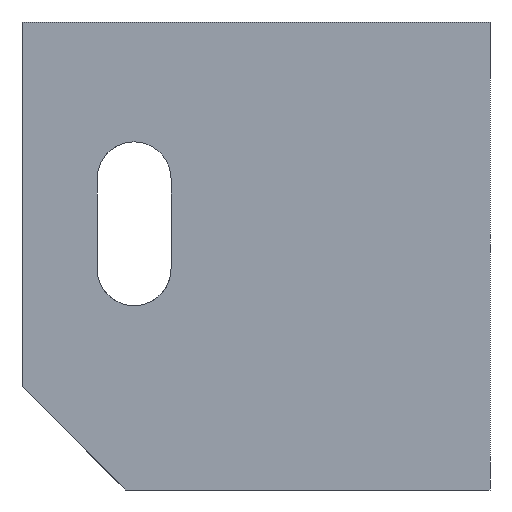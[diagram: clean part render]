
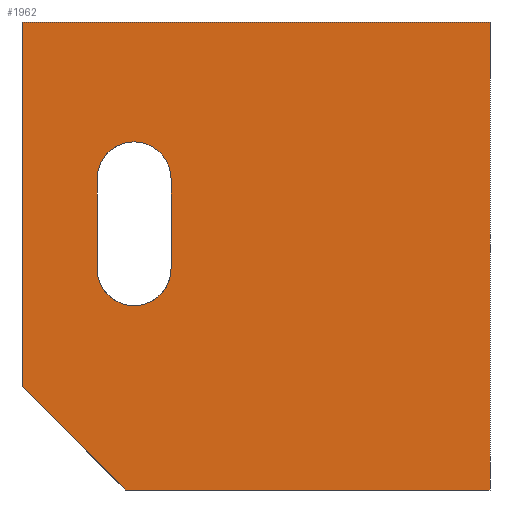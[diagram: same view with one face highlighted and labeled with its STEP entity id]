
A CAD part, front view. The second image highlights one B-rep face of the part: STEP entity #1962.
In plain terms, the highlighted planar face has unit normal (0, -1, 0).
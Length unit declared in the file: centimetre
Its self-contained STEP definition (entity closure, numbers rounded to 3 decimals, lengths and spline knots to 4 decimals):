
#34 = DIRECTION ( 'NONE',  ( 0., -1., 0. ) ) ;
#43 = CARTESIAN_POINT ( 'NONE',  ( 318.3973, 0., 472.7057 ) ) ;
#45 = EDGE_CURVE ( 'NONE', #875, #2383, #383, .T. ) ;
#64 = LINE ( 'NONE', #1227, #885 ) ;
#129 = VERTEX_POINT ( 'NONE', #2756 ) ;
#205 = DIRECTION ( 'NONE',  ( 1., 0., 0. ) ) ;
#244 = FACE_OUTER_BOUND ( 'NONE', #2259, .T. ) ;
#262 = AXIS2_PLACEMENT_3D ( 'NONE', #2901, #1920, #784 ) ;
#297 = VERTEX_POINT ( 'NONE', #2003 ) ;
#383 = LINE ( 'NONE', #639, #2956 ) ;
#408 = VECTOR ( 'NONE', #738, 100. ) ;
#437 = CIRCLE ( 'NONE', #2853, 79.0118 ) ;
#474 = CARTESIAN_POINT ( 'NONE',  ( 160.3738, 0., 664.8593 ) ) ;
#581 = EDGE_CURVE ( 'NONE', #1249, #1004, #1885, .T. ) ;
#628 = CARTESIAN_POINT ( 'NONE',  ( 0., 0., 1000. ) ) ;
#639 = CARTESIAN_POINT ( 'NONE',  ( 160.3738, 0., 472.7057 ) ) ;
#641 = ORIENTED_EDGE ( 'NONE', *, *, #1314, .T. ) ;
#738 = DIRECTION ( 'NONE',  ( 0.707, 0., -0.707 ) ) ;
#784 = DIRECTION ( 'NONE',  ( 0., 0., 1. ) ) ;
#793 = CIRCLE ( 'NONE', #2868, 79.0118 ) ;
#847 = ORIENTED_EDGE ( 'NONE', *, *, #581, .T. ) ;
#875 = VERTEX_POINT ( 'NONE', #474 ) ;
#885 = VECTOR ( 'NONE', #2147, 100. ) ;
#910 = LINE ( 'NONE', #2500, #2285 ) ;
#939 = CARTESIAN_POINT ( 'NONE',  ( 160.3738, 0., 472.7057 ) ) ;
#980 = CARTESIAN_POINT ( 'NONE',  ( 239.3855, 0., 472.7057 ) ) ;
#1004 = VERTEX_POINT ( 'NONE', #1378 ) ;
#1039 = EDGE_CURVE ( 'NONE', #2879, #1283, #910, .T. ) ;
#1118 = DIRECTION ( 'NONE',  ( 0., 0., -1. ) ) ;
#1182 = VECTOR ( 'NONE', #1220, 100. ) ;
#1206 = LINE ( 'NONE', #2355, #1454 ) ;
#1219 = VERTEX_POINT ( 'NONE', #1240 ) ;
#1220 = DIRECTION ( 'NONE',  ( 0., 0., -1. ) ) ;
#1227 = CARTESIAN_POINT ( 'NONE',  ( 0., 0., 1000. ) ) ;
#1240 = CARTESIAN_POINT ( 'NONE',  ( 239.3855, 0., 393.6939 ) ) ;
#1249 = VERTEX_POINT ( 'NONE', #628 ) ;
#1283 = VERTEX_POINT ( 'NONE', #1526 ) ;
#1314 = EDGE_CURVE ( 'NONE', #297, #2208, #1412, .T. ) ;
#1328 = ORIENTED_EDGE ( 'NONE', *, *, #1039, .F. ) ;
#1378 = CARTESIAN_POINT ( 'NONE',  ( 0., 0., 220.9322 ) ) ;
#1412 = LINE ( 'NONE', #2560, #2828 ) ;
#1434 = ORIENTED_EDGE ( 'NONE', *, *, #2370, .T. ) ;
#1454 = VECTOR ( 'NONE', #2796, 100. ) ;
#1516 = CIRCLE ( 'NONE', #262, 79.0118 ) ;
#1526 = CARTESIAN_POINT ( 'NONE',  ( 318.3973, 0., 664.8593 ) ) ;
#1624 = DIRECTION ( 'NONE',  ( 0., 1., 0. ) ) ;
#1716 = CARTESIAN_POINT ( 'NONE',  ( 1000., 0., 0. ) ) ;
#1843 = DIRECTION ( 'NONE',  ( 0., 0., 1. ) ) ;
#1859 = DIRECTION ( 'NONE',  ( 0., -1., 0. ) ) ;
#1885 = LINE ( 'NONE', #2077, #1182 ) ;
#1887 = CARTESIAN_POINT ( 'NONE',  ( 239.3855, 0., 664.8593 ) ) ;
#1920 = DIRECTION ( 'NONE',  ( 0., -1., 0. ) ) ;
#1946 = ORIENTED_EDGE ( 'NONE', *, *, #45, .F. ) ;
#1962 = ADVANCED_FACE ( 'NONE', ( #2115, #244 ), #2832, .F. ) ;
#2003 = CARTESIAN_POINT ( 'NONE',  ( 220.9322, 0., 0. ) ) ;
#2015 = EDGE_CURVE ( 'NONE', #1249, #129, #64, .T. ) ;
#2018 = EDGE_LOOP ( 'NONE', ( #1328, #2246, #2429, #1946, #2071 ) ) ;
#2071 = ORIENTED_EDGE ( 'NONE', *, *, #2705, .F. ) ;
#2077 = CARTESIAN_POINT ( 'NONE',  ( 0., 0., 1000. ) ) ;
#2115 = FACE_BOUND ( 'NONE', #2018, .T. ) ;
#2128 = CARTESIAN_POINT ( 'NONE',  ( 0., 0., 220.9322 ) ) ;
#2147 = DIRECTION ( 'NONE',  ( 1., 0., 0. ) ) ;
#2208 = VERTEX_POINT ( 'NONE', #1716 ) ;
#2246 = ORIENTED_EDGE ( 'NONE', *, *, #2390, .F. ) ;
#2254 = ORIENTED_EDGE ( 'NONE', *, *, #2015, .F. ) ;
#2259 = EDGE_LOOP ( 'NONE', ( #847, #1434, #641, #2807, #2254 ) ) ;
#2285 = VECTOR ( 'NONE', #2757, 100. ) ;
#2355 = CARTESIAN_POINT ( 'NONE',  ( 1000., 0., 1000. ) ) ;
#2370 = EDGE_CURVE ( 'NONE', #1004, #297, #2374, .T. ) ;
#2374 = LINE ( 'NONE', #2128, #408 ) ;
#2383 = VERTEX_POINT ( 'NONE', #939 ) ;
#2390 = EDGE_CURVE ( 'NONE', #1219, #2879, #793, .T. ) ;
#2428 = EDGE_CURVE ( 'NONE', #2383, #1219, #1516, .T. ) ;
#2429 = ORIENTED_EDGE ( 'NONE', *, *, #2428, .F. ) ;
#2500 = CARTESIAN_POINT ( 'NONE',  ( 318.3973, 0., 664.8593 ) ) ;
#2560 = CARTESIAN_POINT ( 'NONE',  ( 0., 0., 0. ) ) ;
#2571 = DIRECTION ( 'NONE',  ( 0., 0., 1. ) ) ;
#2705 = EDGE_CURVE ( 'NONE', #1283, #875, #437, .T. ) ;
#2756 = CARTESIAN_POINT ( 'NONE',  ( 1000., 0., 1000. ) ) ;
#2757 = DIRECTION ( 'NONE',  ( 0., 0., 1. ) ) ;
#2796 = DIRECTION ( 'NONE',  ( 0., 0., -1. ) ) ;
#2802 = CARTESIAN_POINT ( 'NONE',  ( 0., 0., 1000. ) ) ;
#2807 = ORIENTED_EDGE ( 'NONE', *, *, #2977, .F. ) ;
#2828 = VECTOR ( 'NONE', #205, 100. ) ;
#2832 = PLANE ( 'NONE',  #2866 ) ;
#2853 = AXIS2_PLACEMENT_3D ( 'NONE', #1887, #1859, #1843 ) ;
#2866 = AXIS2_PLACEMENT_3D ( 'NONE', #2802, #1624, #2571 ) ;
#2868 = AXIS2_PLACEMENT_3D ( 'NONE', #980, #34, #2990 ) ;
#2879 = VERTEX_POINT ( 'NONE', #43 ) ;
#2901 = CARTESIAN_POINT ( 'NONE',  ( 239.3855, 0., 472.7057 ) ) ;
#2956 = VECTOR ( 'NONE', #1118, 100. ) ;
#2977 = EDGE_CURVE ( 'NONE', #129, #2208, #1206, .T. ) ;
#2990 = DIRECTION ( 'NONE',  ( 0., 0., 1. ) ) ;
